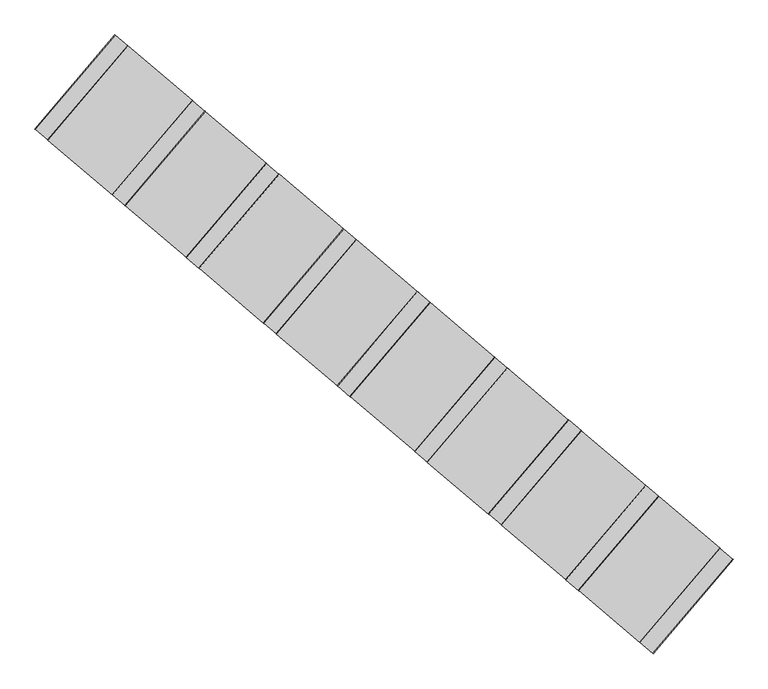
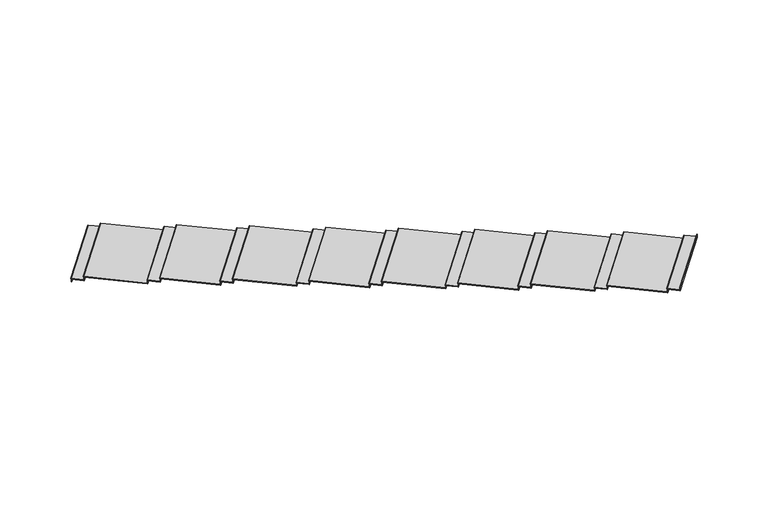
"""IFC4 building model written with IfcOpenShell, lengths in millimetres: stair flight geometry, Wood Steps with 50 mm Tread 20 mm Nosing 13 mm Riser."""

from ifc_helpers import new_model, si_unit, point, frame, frame_2d, origin, place, context, project, spatial, polyline, circle_curve, trimmed, segment, composite_curve, outline, extrude, source, transform, mapped, element, save


def stair_flight_1249d508(model_context):
    return source(origin(), model_context, "Body", "SweptSolid", [
        extrude(outline(composite_curve([segment(polyline([(0.0, -549.376541), (0.0, 0.0)]), True, "CONTINUOUS"), segment(trimmed(circle_curve(frame_2d((10.0, 0.0)), 10.0), [point((0.0, 0.0))], [point((20.0, 0.0))], False, "CARTESIAN"), True, "CONTINUOUS"), segment(polyline([(20.0, 0.0), (50.0, 0.0), (50.0, -549.376541), (0.0, -549.376541)]), True, "CONTINUOUS")], self_intersect=False)), frame((858518.4411311, 56584.961594, 3169.3333333), z_axis=(0.6473560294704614, 0.7621877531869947, 0.0), x_axis=(0.0, 0.0, -1.0)), (0.0, 0.0, 1.0), 3994.577271),
        extrude(outline(polyline([(858535.5903555, 56570.3960833), (858526.0630086, 56578.4880337), (861111.9766902, 59623.1059087), (861121.5040371, 59615.0139584), (858535.5903555, 56570.3960833)])), frame((0.0, 0.0, 3000.0), z_axis=(0.0, 0.0, 1.0), x_axis=(1.0, 0.0, 0.0)), (0.0, 0.0, 1.0), 119.3333333),
        extrude(outline(polyline([(858946.6965494, 56221.2274273), (858937.1692025, 56229.3193777), (861523.0828841, 59273.9372528), (861532.610231, 59265.8453024), (858946.6965494, 56221.2274273)])), frame((0.0, 0.0, 3119.3333333), z_axis=(0.0, 0.0, 1.0), x_axis=(1.0, 0.0, 0.0)), (0.0, 0.0, 1.0), 169.3333333),
        extrude(outline(composite_curve([segment(polyline([(0.0, -2749.0357571), (0.0, 0.0)]), True, "CONTINUOUS"), segment(trimmed(circle_curve(frame_2d((10.0, 0.0)), 10.0), [point((0.0, 0.0))], [point((20.0, 0.0))], False, "CARTESIAN"), True, "CONTINUOUS"), segment(polyline([(20.0, 0.0), (50.0, 0.0), (50.0, -2749.0357571), (0.0, -2749.0357571)]), True, "CONTINUOUS")], self_intersect=False)), frame((858929.547325, 56235.792938, 3338.6666667), z_axis=(0.6473560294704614, 0.7621877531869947, 0.0), x_axis=(0.0, 0.0, -1.0)), (0.0, 0.0, 1.0), 3994.577271),
        extrude(outline(polyline([(861034.356059, 54448.096115), (861024.8287121, 54456.1880654), (863610.7423937, 57500.8059405), (863620.2697406, 57492.7139901), (861034.356059, 54448.096115)])), frame((0.0, 0.0, 3288.6666667), z_axis=(0.0, 0.0, 1.0), x_axis=(1.0, 0.0, 0.0)), (0.0, 0.0, 1.0), 169.3333333),
        extrude(outline(composite_curve([segment(polyline([(0.0, -549.376541), (0.0, 0.0)]), True, "CONTINUOUS"), segment(trimmed(circle_curve(frame_2d((10.0, 0.0)), 10.0), [point((0.0, 0.0))], [point((20.0, 0.0))], False, "CARTESIAN"), True, "CONTINUOUS"), segment(polyline([(20.0, 0.0), (50.0, 0.0), (50.0, -549.376541), (0.0, -549.376541)]), True, "CONTINUOUS")], self_intersect=False)), frame((861017.2068346, 54462.6616257, 3508.0), z_axis=(0.6473560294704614, 0.7621877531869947, 0.0), x_axis=(0.0, 0.0, -1.0)), (0.0, 0.0, 1.0), 3994.577271),
        extrude(outline(polyline([(861445.4622529, 54098.9274591), (861435.934906, 54107.0194094), (864021.8485876, 57151.6372845), (864031.3759345, 57143.5453341), (861445.4622529, 54098.9274591)])), frame((0.0, 0.0, 3458.0), z_axis=(0.0, 0.0, 1.0), x_axis=(1.0, 0.0, 0.0)), (0.0, 0.0, 1.0), 169.3333333),
        extrude(outline(composite_curve([segment(polyline([(0.0, -2606.1723656), (0.0, 0.0)]), True, "CONTINUOUS"), segment(trimmed(circle_curve(frame_2d((10.0, 0.0)), 10.0), [point((0.0, 0.0))], [point((20.0, 0.0))], False, "CARTESIAN"), True, "CONTINUOUS"), segment(polyline([(20.0, 0.0), (50.0, 0.0), (50.0, -2606.1723656), (0.0, -2606.1723656)]), True, "CONTINUOUS")], self_intersect=False)), frame((861428.3130285, 54113.4929697, 3677.3333333), z_axis=(0.6473560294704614, 0.7621877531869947, 0.0), x_axis=(0.0, 0.0, -1.0)), (0.0, 0.0, 1.0), 3994.577271),
        extrude(outline(polyline([(863424.2330352, 52418.2796247), (863414.7056882, 52426.371575), (866000.6193698, 55470.9894501), (866010.1467167, 55462.8974997), (863424.2330352, 52418.2796247)])), frame((0.0, 0.0, 3627.3333333), z_axis=(0.0, 0.0, 1.0), x_axis=(1.0, 0.0, 0.0)), (0.0, 0.0, 1.0), 169.3333333),
        extrude(outline(composite_curve([segment(polyline([(0.0, -549.3765409), (0.0, 0.0)]), True, "CONTINUOUS"), segment(trimmed(circle_curve(frame_2d((10.0, 0.0)), 10.0), [point((0.0, 0.0))], [point((20.0, 0.0))], False, "CARTESIAN"), True, "CONTINUOUS"), segment(polyline([(20.0, 0.0), (50.0, 0.0), (50.0, -549.3765409), (0.0, -549.3765409)]), True, "CONTINUOUS")], self_intersect=False)), frame((863407.0838107, 52432.8451353, 3846.6666667), z_axis=(0.6473560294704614, 0.7621877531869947, 0.0), x_axis=(0.0, 0.0, -1.0)), (0.0, 0.0, 1.0), 3994.577271),
        extrude(outline(polyline([(863835.3392291, 52069.1109687), (863825.8118821, 52077.2029191), (866411.7255637, 55121.8207941), (866421.2529106, 55113.7288438), (863835.3392291, 52069.1109687)])), frame((0.0, 0.0, 3796.6666667), z_axis=(0.0, 0.0, 1.0), x_axis=(1.0, 0.0, 0.0)), (0.0, 0.0, 1.0), 169.3333333),
        extrude(outline(composite_curve([segment(polyline([(0.0, -2749.0357572), (0.0, 0.0)]), True, "CONTINUOUS"), segment(trimmed(circle_curve(frame_2d((10.0, 0.0)), 10.0), [point((0.0, 0.0))], [point((20.0, 0.0))], False, "CARTESIAN"), True, "CONTINUOUS"), segment(polyline([(20.0, 0.0), (50.0, 0.0), (50.0, -2749.0357572), (0.0, -2749.0357572)]), True, "CONTINUOUS")], self_intersect=False)), frame((863818.1900046, 52083.6764794, 4016.0), z_axis=(0.6473560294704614, 0.7621877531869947, 0.0), x_axis=(0.0, 0.0, -1.0)), (0.0, 0.0, 1.0), 3994.577271),
        extrude(outline(polyline([(865922.9987387, 50295.9796564), (865913.4713918, 50304.0716068), (868499.3850733, 53348.6894818), (868508.9124202, 53340.5975315), (865922.9987387, 50295.9796564)])), frame((0.0, 0.0, 3966.0), z_axis=(0.0, 0.0, 1.0), x_axis=(1.0, 0.0, 0.0)), (0.0, 0.0, 1.0), 169.3333333),
        extrude(outline(composite_curve([segment(polyline([(0.0, -549.376541), (0.0, 0.0)]), True, "CONTINUOUS"), segment(trimmed(circle_curve(frame_2d((10.0, 0.0)), 10.0), [point((0.0, 0.0))], [point((20.0, 0.0))], False, "CARTESIAN"), True, "CONTINUOUS"), segment(polyline([(20.0, 0.0), (50.0, 0.0), (50.0, -549.376541), (0.0, -549.376541)]), True, "CONTINUOUS")], self_intersect=False)), frame((865905.8495142, 50310.545167, 4185.3333333), z_axis=(0.6473560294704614, 0.7621877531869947, 0.0), x_axis=(0.0, 0.0, -1.0)), (0.0, 0.0, 1.0), 3994.577271),
        extrude(outline(polyline([(866334.1049326, 49946.8110004), (866324.5775857, 49954.9029508), (868910.4912672, 52999.5208259), (868920.0186141, 52991.4288755), (866334.1049326, 49946.8110004)])), frame((0.0, 0.0, 4135.3333333), z_axis=(0.0, 0.0, 1.0), x_axis=(1.0, 0.0, 0.0)), (0.0, 0.0, 1.0), 169.3333333),
        extrude(outline(composite_curve([segment(polyline([(0.0, -2606.1723656), (0.0, 0.0)]), True, "CONTINUOUS"), segment(trimmed(circle_curve(frame_2d((10.0, 0.0)), 10.0), [point((0.0, 0.0))], [point((20.0, 0.0))], False, "CARTESIAN"), True, "CONTINUOUS"), segment(polyline([(20.0, 0.0), (50.0, 0.0), (50.0, -2606.1723656), (0.0, -2606.1723656)]), True, "CONTINUOUS")], self_intersect=False)), frame((866316.9557081, 49961.3765111, 4354.6666667), z_axis=(0.6473560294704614, 0.7621877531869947, 0.0), x_axis=(0.0, 0.0, -1.0)), (0.0, 0.0, 1.0), 3994.577271),
        extrude(outline(polyline([(868312.8757148, 48266.163166), (868303.3483679, 48274.2551164), (870889.2620494, 51318.8729915), (870898.7893963, 51310.7810411), (868312.8757148, 48266.163166)])), frame((0.0, 0.0, 4304.6666667), z_axis=(0.0, 0.0, 1.0), x_axis=(1.0, 0.0, 0.0)), (0.0, 0.0, 1.0), 169.3333333),
        extrude(outline(composite_curve([segment(polyline([(0.0, -549.3765411), (0.0, 0.0)]), True, "CONTINUOUS"), segment(trimmed(circle_curve(frame_2d((10.0, 0.0)), 10.0), [point((0.0, 0.0))], [point((20.0, 0.0))], False, "CARTESIAN"), True, "CONTINUOUS"), segment(polyline([(20.0, 0.0), (50.0, 0.0), (50.0, -549.3765411), (0.0, -549.3765411)]), True, "CONTINUOUS")], self_intersect=False)), frame((868295.7264903, 48280.7286767, 4524.0), z_axis=(0.6473560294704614, 0.7621877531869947, 0.0), x_axis=(0.0, 0.0, -1.0)), (0.0, 0.0, 1.0), 3994.577271),
        extrude(outline(polyline([(868723.9819087, 47916.9945101), (868714.4545618, 47925.0864604), (871300.3682433, 50969.7043355), (871309.8955902, 50961.6123851), (868723.9819087, 47916.9945101)])), frame((0.0, 0.0, 4474.0), z_axis=(0.0, 0.0, 1.0), x_axis=(1.0, 0.0, 0.0)), (0.0, 0.0, 1.0), 169.3333333),
        extrude(outline(composite_curve([segment(polyline([(0.0, -2749.0357572), (0.0, 0.0)]), True, "CONTINUOUS"), segment(trimmed(circle_curve(frame_2d((10.0, 0.0)), 10.0), [point((0.0, 0.0))], [point((20.0, 0.0))], False, "CARTESIAN"), True, "CONTINUOUS"), segment(polyline([(20.0, 0.0), (50.0, 0.0), (50.0, -2749.0357572), (0.0, -2749.0357572)]), True, "CONTINUOUS")], self_intersect=False)), frame((868706.8326842, 47931.5600207, 4693.3333333), z_axis=(0.6473560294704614, 0.7621877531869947, 0.0), x_axis=(0.0, 0.0, -1.0)), (0.0, 0.0, 1.0), 3994.577271),
        extrude(outline(polyline([(870811.6414183, 46143.8631978), (870802.1140714, 46151.9551481), (873388.0277529, 49196.5730232), (873397.5550998, 49188.4810729), (870811.6414183, 46143.8631978)])), frame((0.0, 0.0, 4643.3333333), z_axis=(0.0, 0.0, 1.0), x_axis=(1.0, 0.0, 0.0)), (0.0, 0.0, 1.0), 169.3333333),
        extrude(outline(composite_curve([segment(polyline([(0.0, -549.376541), (0.0, 0.0)]), True, "CONTINUOUS"), segment(trimmed(circle_curve(frame_2d((10.0, 0.0)), 10.0), [point((0.0, 0.0))], [point((20.0, 0.0))], False, "CARTESIAN"), True, "CONTINUOUS"), segment(polyline([(20.0, 0.0), (50.0, 0.0), (50.0, -549.376541), (0.0, -549.376541)]), True, "CONTINUOUS")], self_intersect=False)), frame((870794.4921938, 46158.4287084, 4862.6666667), z_axis=(0.6473560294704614, 0.7621877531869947, 0.0), x_axis=(0.0, 0.0, -1.0)), (0.0, 0.0, 1.0), 3994.577271),
        extrude(outline(polyline([(871222.7476122, 45794.6945418), (871213.2202653, 45802.7864922), (873799.1339468, 48847.4043673), (873808.6612937, 48839.3124169), (871222.7476122, 45794.6945418)])), frame((0.0, 0.0, 4812.6666667), z_axis=(0.0, 0.0, 1.0), x_axis=(1.0, 0.0, 0.0)), (0.0, 0.0, 1.0), 169.3333333),
        extrude(outline(composite_curve([segment(polyline([(0.0, -2606.1723656), (0.0, 0.0)]), True, "CONTINUOUS"), segment(trimmed(circle_curve(frame_2d((10.0, 0.0)), 10.0), [point((0.0, 0.0))], [point((20.0, 0.0))], False, "CARTESIAN"), True, "CONTINUOUS"), segment(polyline([(20.0, 0.0), (50.0, 0.0), (50.0, -2606.1723656), (0.0, -2606.1723656)]), True, "CONTINUOUS")], self_intersect=False)), frame((871205.5983877, 45809.2600524, 5032.0), z_axis=(0.6473560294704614, 0.7621877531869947, 0.0), x_axis=(0.0, 0.0, -1.0)), (0.0, 0.0, 1.0), 3994.577271),
        extrude(outline(polyline([(873201.5183944, 44114.0467074), (873191.9910475, 44122.1386577), (875777.904729, 47166.7565329), (875787.432076, 47158.6645825), (873201.5183944, 44114.0467074)])), frame((0.0, 0.0, 4982.0), z_axis=(0.0, 0.0, 1.0), x_axis=(1.0, 0.0, 0.0)), (0.0, 0.0, 1.0), 169.3333333),
        extrude(outline(composite_curve([segment(polyline([(0.0, -549.3765409), (0.0, 0.0)]), True, "CONTINUOUS"), segment(trimmed(circle_curve(frame_2d((10.0, 0.0)), 10.0), [point((0.0, 0.0))], [point((20.0, 0.0))], False, "CARTESIAN"), True, "CONTINUOUS"), segment(polyline([(20.0, 0.0), (50.0, 0.0), (50.0, -549.3765409), (0.0, -549.3765409)]), True, "CONTINUOUS")], self_intersect=False)), frame((873184.36917, 44128.612218, 5201.3333333), z_axis=(0.6473560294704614, 0.7621877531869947, 0.0), x_axis=(0.0, 0.0, -1.0)), (0.0, 0.0, 1.0), 3994.577271),
        extrude(outline(polyline([(873612.6245883, 43764.8780514), (873603.0972414, 43772.9700018), (876189.0109229, 46817.5878769), (876198.5382699, 46809.4959265), (873612.6245883, 43764.8780514)])), frame((0.0, 0.0, 5151.3333333), z_axis=(0.0, 0.0, 1.0), x_axis=(1.0, 0.0, 0.0)), (0.0, 0.0, 1.0), 169.3333333),
        extrude(outline(composite_curve([segment(polyline([(0.0, -2749.0357571), (0.0, 0.0)]), True, "CONTINUOUS"), segment(trimmed(circle_curve(frame_2d((10.0, 0.0)), 10.0), [point((0.0, 0.0))], [point((20.0, 0.0))], False, "CARTESIAN"), True, "CONTINUOUS"), segment(polyline([(20.0, 0.0), (50.0, 0.0), (50.0, -2749.0357571), (0.0, -2749.0357571)]), True, "CONTINUOUS")], self_intersect=False)), frame((873595.4753639, 43779.4435621, 5370.6666667), z_axis=(0.6473560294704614, 0.7621877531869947, 0.0), x_axis=(0.0, 0.0, -1.0)), (0.0, 0.0, 1.0), 3994.577271),
        extrude(outline(polyline([(875700.2840979, 41991.7467391), (875690.756751, 41999.8386895), (878276.6704326, 45044.4565646), (878286.1977795, 45036.3646142), (875700.2840979, 41991.7467391)])), frame((0.0, 0.0, 5320.6666667), z_axis=(0.0, 0.0, 1.0), x_axis=(1.0, 0.0, 0.0)), (0.0, 0.0, 1.0), 169.3333333),
        extrude(outline(composite_curve([segment(polyline([(0.0, -549.376541), (0.0, 0.0)]), True, "CONTINUOUS"), segment(trimmed(circle_curve(frame_2d((10.0, 0.0)), 10.0), [point((0.0, 0.0))], [point((20.0, 0.0))], False, "CARTESIAN"), True, "CONTINUOUS"), segment(polyline([(20.0, 0.0), (50.0, 0.0), (50.0, -549.376541), (0.0, -549.376541)]), True, "CONTINUOUS")], self_intersect=False)), frame((875683.1348735, 42006.3122498, 5540.0), z_axis=(0.6473560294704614, 0.7621877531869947, 0.0), x_axis=(0.0, 0.0, -1.0)), (0.0, 0.0, 1.0), 3994.577271),
        extrude(outline(polyline([(876111.3902918, 41642.5780831), (876101.8629449, 41650.6700335), (878687.7766265, 44695.2879086), (878697.3039734, 44687.1959583), (876111.3902918, 41642.5780831)])), frame((0.0, 0.0, 5490.0), z_axis=(0.0, 0.0, 1.0), x_axis=(1.0, 0.0, 0.0)), (0.0, 0.0, 1.0), 169.3333333),
        extrude(outline(composite_curve([segment(polyline([(0.0, -2606.1723656), (0.0, 0.0)]), True, "CONTINUOUS"), segment(trimmed(circle_curve(frame_2d((10.0, 0.0)), 10.0), [point((0.0, 0.0))], [point((20.0, 0.0))], False, "CARTESIAN"), True, "CONTINUOUS"), segment(polyline([(20.0, 0.0), (50.0, 0.0), (50.0, -2606.1723656), (0.0, -2606.1723656)]), True, "CONTINUOUS")], self_intersect=False)), frame((876094.2410674, 41657.1435938, 5709.3333333), z_axis=(0.6473560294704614, 0.7621877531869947, 0.0), x_axis=(0.0, 0.0, -1.0)), (0.0, 0.0, 1.0), 3994.577271),
        extrude(outline(polyline([(878090.161074, 39961.9302487), (878080.6337271, 39970.0221991), (880666.5474087, 43014.6400742), (880676.0747556, 43006.5481239), (878090.161074, 39961.9302487)])), frame((0.0, 0.0, 5659.3333333), z_axis=(0.0, 0.0, 1.0), x_axis=(1.0, 0.0, 0.0)), (0.0, 0.0, 1.0), 169.3333333),
        extrude(outline(polyline([(878501.2672679, 39612.7615928), (878491.739921, 39620.8535431), (881077.6536026, 42665.4714183), (881087.1809495, 42657.3794679), (878501.2672679, 39612.7615928)])), frame((0.0, 0.0, 5828.6666667), z_axis=(0.0, 0.0, 1.0), x_axis=(1.0, 0.0, 0.0)), (0.0, 0.0, 1.0), 169.3333333),
        extrude(outline(composite_curve([segment(polyline([(0.0, -549.376541), (0.0, 0.0)]), True, "CONTINUOUS"), segment(trimmed(circle_curve(frame_2d((10.0, 0.0)), 10.0), [point((0.0, 0.0))], [point((20.0, 0.0))], False, "CARTESIAN"), True, "CONTINUOUS"), segment(polyline([(20.0, 0.0), (50.0, 0.0), (50.0, -549.376541), (0.0, -549.376541)]), True, "CONTINUOUS")], self_intersect=False)), frame((878073.0118496, 39976.4957594, 5878.6666667), z_axis=(0.6473560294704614, 0.7621877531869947, 0.0), x_axis=(0.0, 0.0, -1.0)), (0.0, 0.0, 1.0), 3994.577271),
    ])


if __name__ == "__main__":
    model = new_model("IFC4")
    model_context = context("Model", 3, world=origin())
    ifc_project = project(units=[si_unit("LENGTHUNIT", "METRE", prefix="MILLI")], contexts=[model_context])
    site = spatial("IfcSite", under=ifc_project)
    building = spatial("IfcBuilding", under=site)
    placement = place(None, origin())
    stair_flight_shape = stair_flight_1249d508(model_context)
    element("IfcStairFlight", 1, ObjectType="Wood Steps with 50 mm Tread 20 mm Nosing 13 mm Riser", at=placement, inside=building, context=model_context, shape_type="MappedRepresentation", body=[
        mapped(stair_flight_shape, transform((0.0, 0.0, 0.0), x_axis=(1.0, 0.0, 0.0), y_axis=(0.0, 1.0, 0.0), z_axis=(0.0, 0.0, 1.0))),
    ])
    save(model, "model.ifc")
